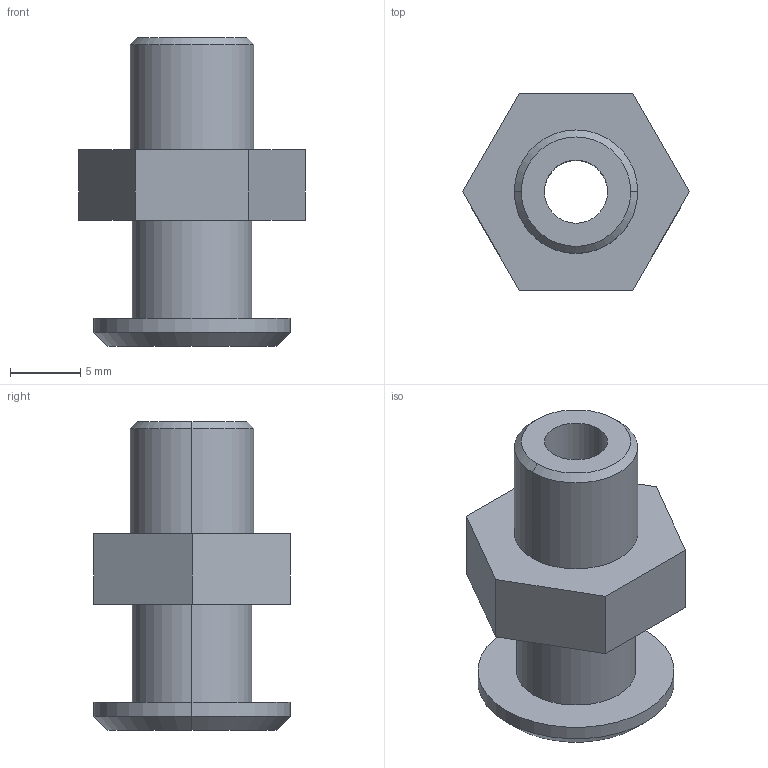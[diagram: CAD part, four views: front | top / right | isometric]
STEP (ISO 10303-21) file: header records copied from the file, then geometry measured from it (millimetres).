
FILE_DESCRIPTION (( 'STEP AP214' ), '1' );
FILE_NAME ('VM38-G18.STEP', '2023-03-07T08:52:13', ( 'Windows User' ), ( 'P R C' ), 'SwSTEP 2.0', 'SolidWorks 2019', '' );
FILE_SCHEMA (( 'AUTOMOTIVE_DESIGN' ));
Length unit declared in the file: millimetre
Products named in the file (1): VM38-G18
Bounding box: 16.17 x 14 x 22 mm (x, y, z)
Volume: 1666.2 mm3; surface area: 1516.1 mm2
Topology: 1 solids, 1 shells, 23 faces, 50 edges, 32 vertices
Faces by surface type: plane 11, cylinder 8, cone 4
Entity records: 670 total; most frequent: DIRECTION 118, CARTESIAN_POINT 106, ORIENTED_EDGE 100, EDGE_CURVE 50, AXIS2_PLACEMENT_3D 44, VERTEX_POINT 32, VECTOR 30, LINE 30
